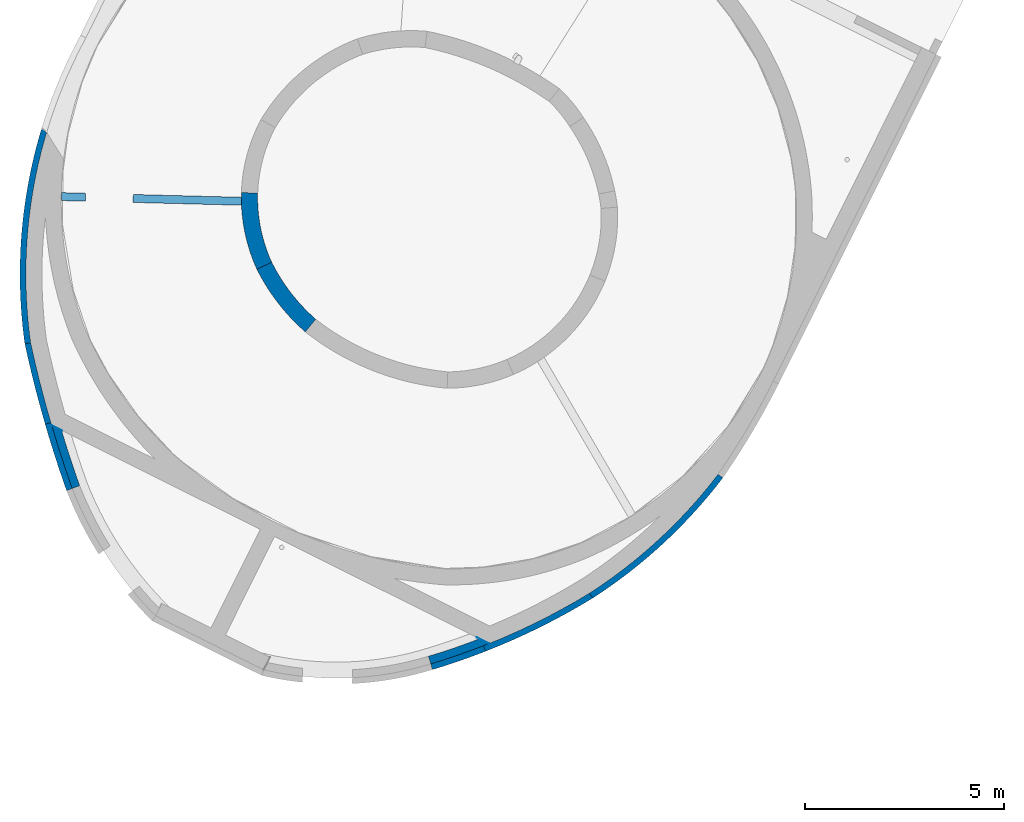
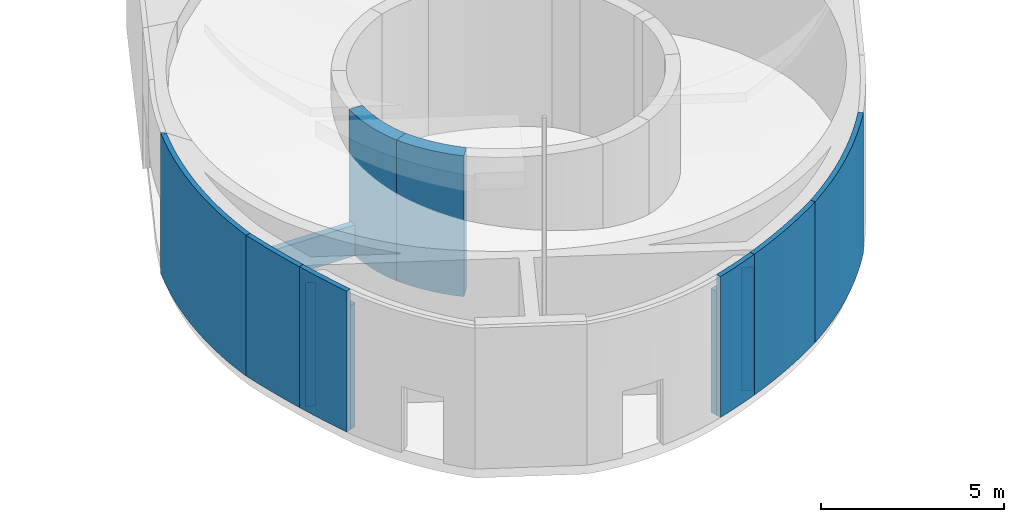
# One storey, part 5 of 91: 13 walls, 1 opening.
"""IFC2X3 building model written with IfcOpenShell, lengths in metres."""

from ifc_helpers import new_model, entity, si_unit, converted_unit, derived_unit, direction, frame, frame_2d, origin, place, context, subcontext, project, spatial, polyline, circle_curve, parameter, trimmed, segment, composite_curve, rectangle, outline, extrude, material, layer, layer_set, layer_usage, type_object, element, save


model = new_model("IFC2X3")

# Units and contexts
model_context = context("Model", 3, precision=1e-05, world=origin(), true_north=direction((0.894925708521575, 0.446215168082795)))
context_of_model = context(None, 3, precision=1e-05, world=origin(), true_north=direction((0.894925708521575, 0.446215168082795)))
body_context = subcontext(model_context, "Body", "Model", "MODEL_VIEW")
ifc_project = project(units=[si_unit("LENGTHUNIT", "METRE"), si_unit("AREAUNIT", "SQUARE_METRE"), si_unit("VOLUMEUNIT", "CUBIC_METRE"), converted_unit("PLANEANGLEUNIT", "DEGREE", entity("IfcRatioMeasure", 0.0174532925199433), si_unit("PLANEANGLEUNIT", "RADIAN"), dimensions=[0, 0, 0, 0, 0, 0, 0]), si_unit("MASSUNIT", "GRAM", prefix="KILO"), si_unit("TIMEUNIT", "SECOND"), si_unit("FREQUENCYUNIT", "HERTZ"), si_unit("THERMODYNAMICTEMPERATUREUNIT", "DEGREE_CELSIUS"), derived_unit("THERMALTRANSMITTANCEUNIT", [(si_unit("MASSUNIT", "GRAM", prefix="KILO"), 1), (si_unit("THERMODYNAMICTEMPERATUREUNIT", "KELVIN"), -1), (si_unit("TIMEUNIT", "SECOND"), -3)]), derived_unit("VOLUMETRICFLOWRATEUNIT", [(si_unit("LENGTHUNIT", "METRE"), 3), (si_unit("TIMEUNIT", "SECOND"), -1)]), si_unit("ELECTRICCURRENTUNIT", "AMPERE"), si_unit("ELECTRICVOLTAGEUNIT", "VOLT"), si_unit("POWERUNIT", "WATT"), si_unit("FORCEUNIT", "NEWTON", prefix="KILO"), si_unit("ILLUMINANCEUNIT", "LUX"), si_unit("LUMINOUSFLUXUNIT", "LUMEN"), si_unit("LUMINOUSINTENSITYUNIT", "CANDELA"), si_unit("PRESSUREUNIT", "PASCAL")], contexts=[model_context, context_of_model])

# Site, building, storey
site_placement = place(None, frame((218.228324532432, 584.720189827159, 0.0), z_axis=(0.0, 0.0, 1.0), x_axis=(0.446215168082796, 0.894925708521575, 0.0)))
site = spatial("IfcSite", under=ifc_project, at=site_placement, Name="Default", CompositionType="ELEMENT")
building_placement = place(site_placement, origin())
building = spatial("IfcBuilding", under=site, at=building_placement, CompositionType="ELEMENT")
storey_placement = place(building_placement, origin())
storey = spatial("IfcBuildingStorey", under=building, at=storey_placement, Name="0 - Piano Terra", CompositionType="ELEMENT", Elevation=0.0)

# Walls
ifc_material_1 = material(Name="Intonaco - Bianco")
ifc_layer_1 = layer(ifc_material_1, 0.01)
ifc_material_2 = material(Name="Default - Calcestruzzo")
ifc_layer_2 = layer(ifc_material_2, 0.4)
ifc_layer_set_1 = layer_set([ifc_layer_1, ifc_layer_2], Name="Muro di base:Setto CA intonacato int - 41 cm")
ifc_layer_usage_1 = layer_usage(ifc_layer_set_1, "AXIS2", "POSITIVE", -0.205)
wall_type_1 = type_object("IfcWallType", Name="Muro di base:Setto CA intonacato int - 41 cm", PredefinedType="STANDARD", material=ifc_layer_set_1)
wall_1_placement = place(storey_placement, frame((-76.8061652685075, -2.20537846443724, 0.0), z_axis=(0.0, 0.0, 1.0), x_axis=(-0.797882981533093, 0.602812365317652, 0.0)))
element("IfcWallStandardCase", 1, at=wall_1_placement, inside=storey, type_object=wall_type_1, material=ifc_layer_usage_1, Name="Muro di base:Setto CA intonacato int - 41 cm", ObjectType="Muro di base:Setto CA intonacato int - 41 cm", context=body_context, shape_type="SweptSolid", body=[
    extrude(outline(composite_curve([segment(polyline([(0.189427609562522, 0.0783720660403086), (-0.185419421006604, -0.088090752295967)]), True, "CONTINUOUS"), segment(trimmed(circle_curve(frame_2d((-4.52933797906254, -1.87392733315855), x_axis=(1.0, 0.0)), 4.69668401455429), [parameter(0.151491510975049)], [parameter(22.3481466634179)], True, "PARAMETER"), False, "CONTINUOUS"), segment(polyline([(0.167329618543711, -1.86150919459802), (0.577342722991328, -1.86811082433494)]), True, "CONTINUOUS"), segment(trimmed(circle_curve(frame_2d((-4.52933797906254, -1.87392733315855), x_axis=(1.0, 0.0)), 5.10668401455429), [parameter(0.0652598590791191)], [parameter(22.4763941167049)], True, "PARAMETER"), True, "CONTINUOUS")], self_intersect=False)), origin(), (0.0, 0.0, 1.0), 4.69),
])
ifc_layer_usage_2 = layer_usage(ifc_layer_set_1, "AXIS2", "POSITIVE", -0.205)
wall_2_placement = place(storey_placement, frame((-75.9813236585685, -0.495753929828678, 0.0), z_axis=(0.0, 0.0, 1.0), x_axis=(-0.421109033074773, 0.907010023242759, 0.0)))
element("IfcWallStandardCase", 2, at=wall_2_placement, inside=storey, type_object=wall_type_1, material=ifc_layer_usage_2, Name="Muro di base:Setto CA intonacato int - 41 cm", ObjectType="Muro di base:Setto CA intonacato int - 41 cm", context=body_context, shape_type="SweptSolid", body=[
    extrude(outline(composite_curve([segment(trimmed(circle_curve(frame_2d((-3.71366241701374, -1.82101515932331), x_axis=(1.0, 0.0)), 4.34110744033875), [parameter(359.999999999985)], [parameter(26.1212812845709)], True, "PARAMETER"), True, "CONTINUOUS"), segment(polyline([(0.184062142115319, 0.0902559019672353), (-0.180979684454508, -0.0965562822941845)]), True, "CONTINUOUS"), segment(trimmed(circle_curve(frame_2d((-3.71366241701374, -1.82101515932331), x_axis=(1.0, 0.0)), 3.93110744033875), [parameter(0.0229809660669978)], [parameter(26.0190522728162)], True, "PARAMETER"), False, "CONTINUOUS"), segment(polyline([(0.217444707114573, -1.81943841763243), (0.627445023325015, -1.82101515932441)]), True, "CONTINUOUS")], self_intersect=False)), origin(), (0.0, 0.0, 1.0), 4.69),
])
ifc_material_3 = material(Name="Sabbia e Calcestruzzo")
ifc_layer_3 = layer(ifc_material_3, 0.2)
ifc_layer_set_2 = layer_set([ifc_layer_3], Name="Muro di base:Blocchetti - 20 cm")
ifc_layer_usage_3 = layer_usage(ifc_layer_set_2, "AXIS2", "POSITIVE", -0.1)
wall_type_2 = type_object("IfcWallType", Name="Muro di base:Blocchetti - 20 cm", PredefinedType="STANDARD", material=ifc_layer_set_2)
wall_3_placement = place(storey_placement, frame((-83.0539183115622, 1.25489317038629, 0.0)))
element("IfcWallStandardCase", 3, at=wall_3_placement, inside=storey, type_object=wall_type_2, material=ifc_layer_usage_3, Name="Muro di base:Blocchetti - 20 cm", ObjectType="Muro di base:Blocchetti - 20 cm", context=body_context, shape_type="SweptSolid", body=[
    extrude(outline(composite_curve([segment(polyline([(-0.0720059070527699, 0.0693912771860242), (0.0742739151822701, -0.0670380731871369)]), True, "CONTINUOUS"), segment(trimmed(circle_curve(frame_2d((21.258177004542, -20.4862644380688), x_axis=(1.0, 0.0)), 29.4228237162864), [parameter(133.221186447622)], [parameter(136.05299329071)], True, "PARAMETER"), False, "CONTINUOUS"), segment(polyline([(1.10893854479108, 0.954601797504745), (1.10893854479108, 1.22824394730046)]), True, "CONTINUOUS"), segment(trimmed(circle_curve(frame_2d((21.258177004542, -20.4862644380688), x_axis=(1.0, 0.0)), 29.6228237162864), [parameter(132.858729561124)], [parameter(136.059357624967)], True, "PARAMETER"), True, "CONTINUOUS")], self_intersect=False)), origin(), (0.0, 0.0, 1.0), 4.13),
])

# Wall, opening
ifc_layer_usage_4 = layer_usage(ifc_layer_set_2, "AXIS2", "NEGATIVE", 0.1)
wall_4_placement = place(storey_placement, frame((-74.7871088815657, 0.737819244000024, 0.0), z_axis=(0.0, 0.0, 1.0), x_axis=(-0.42305389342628, 0.906104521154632, 0.0)))
wall_4 = element("IfcWallStandardCase", 4, at=wall_4_placement, inside=storey, type_object=wall_type_2, material=ifc_layer_usage_4, Name="Muro di base:Blocchetti - 20 cm", ObjectType="Muro di base:Blocchetti - 20 cm", context=body_context, shape_type="SweptSolid", body=[
    extrude(outline(polyline([(0.0, 0.100000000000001), (0.00597672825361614, 5.56275804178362e-05), (0.00964691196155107, -0.100000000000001), (4.51323858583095, -0.100000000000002), (4.51323858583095, 0.1), (0.0, 0.100000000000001)])), origin(), (0.0, 0.0, 1.0), 1.03),
])
opening_placement = place(wall_4_placement, frame((2.93236321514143, 2.08399725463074, 0.0)))
element("IfcOpeningElement", 5, at=opening_placement, cuts=wall_4, Name="Muro di base:Blocchetti - 20 cm", ObjectType="Opening", context=body_context, shape_type="SweptSolid", body=[
    extrude(rectangle(XDim=2.15, YDim=1.2, at=frame_2d((0.0, -3.05311331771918e-15), x_axis=(1.0, 0.0))), frame((0.385230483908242, -3.50799725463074, 1.075), z_axis=(0.0, 1.0, 0.0), x_axis=(0.0, 0.0, -1.0)), (0.0, 0.0, 1.0), 3.048),
])

# Walls
ifc_layer_usage_5 = layer_usage(ifc_layer_set_2, "AXIS2", "NEGATIVE", 0.1)
wall_5_placement = place(storey_placement, frame((-82.9776991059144, -8.61147981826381, 0.0)))
element("IfcWallStandardCase", 6, at=wall_5_placement, inside=storey, type_object=wall_type_2, material=ifc_layer_usage_5, Name="Muro di base:Blocchetti - 20 cm", ObjectType="Muro di base:Blocchetti - 20 cm", context=body_context, shape_type="SweptSolid", body=[
    extrude(outline(composite_curve([segment(polyline([(0.0729285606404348, 0.0684209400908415), (-0.0724641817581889, -0.068915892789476)]), True, "CONTINUOUS"), segment(trimmed(circle_curve(frame_2d((12.3272083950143, 11.5652794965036), x_axis=(1.0, 0.0)), 17.0031286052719), [parameter(223.175749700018)], [parameter(227.88420157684)], True, "PARAMETER"), True, "CONTINUOUS"), segment(trimmed(circle_curve(frame_2d((12.3272083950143, 11.5652794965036), x_axis=(1.0, 0.0)), 17.0031286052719), [parameter(227.88420157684)], [parameter(228.374461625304)], True, "PARAMETER"), True, "CONTINUOUS"), segment(polyline([(1.03271933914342, -1.14459459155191), (1.03271933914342, -0.875767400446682)]), True, "CONTINUOUS"), segment(trimmed(circle_curve(frame_2d((12.3272083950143, 11.5652794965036), x_axis=(1.0, 0.0)), 16.8031286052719), [parameter(223.173462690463)], [parameter(227.765553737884)], True, "PARAMETER"), False, "CONTINUOUS")], self_intersect=False)), origin(), (0.0, 0.0, 1.0), 4.13),
])
ifc_material_4 = material(Name="Alluminio")
ifc_layer_4 = layer(ifc_material_4, 0.15)
ifc_layer_set_3 = layer_set([ifc_layer_4], Name="Muro di base:Rivestimento 15 cm")
ifc_layer_usage_6 = layer_usage(ifc_layer_set_3, "AXIS2", "POSITIVE", -0.075)
wall_type_3 = type_object("IfcWallType", Name="Muro di base:Rivestimento 15 cm", PredefinedType="STANDARD", material=ifc_layer_set_3)
wall_6_placement = place(storey_placement, frame((-80.3649770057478, 3.94526626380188, 0.0)))
element("IfcWallStandardCase", 7, at=wall_6_placement, inside=storey, type_object=wall_type_3, material=ifc_layer_usage_6, Name="Muro di base:Rivestimento 15 cm", ObjectType="Muro di base:Rivestimento 15 cm", context=body_context, shape_type="SweptSolid", body=[
    extrude(outline(composite_curve([segment(trimmed(circle_curve(frame_2d((7.0799428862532, -10.3259398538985), x_axis=(1.0, 0.0)), 12.5950089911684), [parameter(99.5991153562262)], [parameter(124.436341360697)], True, "PARAMETER"), True, "CONTINUOUS"), segment(polyline([(-0.0424117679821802, 0.061856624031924), (0.047000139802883, -0.0587121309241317)]), True, "CONTINUOUS"), segment(trimmed(circle_curve(frame_2d((7.0799428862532, -10.3259398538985), x_axis=(1.0, 0.0)), 12.4450089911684), [parameter(99.9145326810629)], [parameter(124.410732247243)], True, "PARAMETER"), False, "CONTINUOUS"), segment(polyline([(4.93717416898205, 1.93321146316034), (4.97968076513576, 2.09272152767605)]), True, "CONTINUOUS")], self_intersect=False)), origin(), (0.0, 0.0, 1.0), 4.69),
])
ifc_layer_usage_7 = layer_usage(ifc_layer_set_3, "AXIS2", "POSITIVE", -0.075)
wall_7_placement = place(storey_placement, frame((-81.9349797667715, 2.59457218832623, 0.0)))
element("IfcWallStandardCase", 8, at=wall_7_placement, inside=storey, type_object=wall_type_3, material=ifc_layer_usage_7, Name="Muro di base:Rivestimento 15 cm", ObjectType="Muro di base:Rivestimento 15 cm", context=body_context, shape_type="SweptSolid", body=[
    extrude(outline(composite_curve([segment(trimmed(circle_curve(frame_2d((20.1392384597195, -21.825943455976), x_axis=(1.0, 0.0)), 29.7728237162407), [parameter(128.691143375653)], [parameter(132.698351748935)], True, "PARAMETER"), True, "CONTINUOUS"), segment(polyline([(-0.0508603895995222, 0.0551200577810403), (0.0508603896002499, -0.0551200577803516)]), True, "CONTINUOUS"), segment(trimmed(circle_curve(frame_2d((20.1392384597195, -21.825943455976), x_axis=(1.0, 0.0)), 29.6228237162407), [parameter(128.701939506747)], [parameter(132.698351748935)], True, "PARAMETER"), False, "CONTINUOUS"), segment(polyline([(1.61700290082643, 1.29198194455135), (1.52759099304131, 1.41255069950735)]), True, "CONTINUOUS")], self_intersect=False)), origin(), (0.0, 0.0, 1.0), 4.69),
])
ifc_layer_usage_8 = layer_usage(ifc_layer_set_3, "AXIS2", "POSITIVE", -0.075)
wall_8_placement = place(storey_placement, frame((-79.7225219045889, -11.5155032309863, 0.0)))
element("IfcWallStandardCase", 9, at=wall_8_placement, inside=storey, type_object=wall_type_3, material=ifc_layer_usage_8, Name="Muro di base:Rivestimento 15 cm", ObjectType="Muro di base:Rivestimento 15 cm", context=body_context, shape_type="SweptSolid", body=[
    extrude(outline(composite_curve([segment(trimmed(circle_curve(frame_2d((9.07203119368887, 14.4693029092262), x_axis=(1.0, 0.0)), 17.1531286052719), [parameter(227.884201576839)], [parameter(237.91291818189)], True, "PARAMETER"), True, "CONTINUOUS"), segment(polyline([(-0.0398405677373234, -0.0635431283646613), (0.0382862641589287, 0.0645177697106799)]), True, "CONTINUOUS"), segment(polyline([(0.0382862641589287, 0.0645177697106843), (-0.301490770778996, 0.283272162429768)]), True, "CONTINUOUS"), segment(polyline([(-0.301490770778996, 0.283272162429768), (-0.635972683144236, 0.510039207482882)]), True, "CONTINUOUS"), segment(polyline([(-0.635972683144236, 0.510039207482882), (-0.964970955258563, 0.744691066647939)]), True, "CONTINUOUS"), segment(polyline([(-0.964970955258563, 0.744691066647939), (-1.28829966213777, 0.98709511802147)]), True, "CONTINUOUS"), segment(polyline([(-1.28829966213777, 0.98709511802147), (-1.60577620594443, 1.23711444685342)]), True, "CONTINUOUS"), segment(polyline([(-1.60577620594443, 1.23711444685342), (-1.91722129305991, 1.49460783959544)]), True, "CONTINUOUS"), segment(polyline([(-1.91722129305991, 1.49460783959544), (-2.22244539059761, 1.75941801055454)]), True, "CONTINUOUS"), segment(polyline([(-2.22244539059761, 1.75941801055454), (-2.27672704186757, 1.80786267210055)]), True, "CONTINUOUS"), segment(polyline([(-2.27672704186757, 1.80786267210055), (-2.33079703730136, 1.85653593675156)]), True, "CONTINUOUS"), segment(polyline([(-2.33079703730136, 1.85653593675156), (-2.43139171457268, 1.74526729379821)]), True, "CONTINUOUS")], self_intersect=False)), origin(), (0.0, 0.0, 1.0), 4.69),
])
ifc_layer_usage_9 = layer_usage(ifc_layer_set_3, "AXIS2", "POSITIVE", -0.075)
wall_9_placement = place(storey_placement, frame((-83.1816143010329, 1.37457859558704, 0.0)))
element("IfcWallStandardCase", 10, at=wall_9_placement, inside=storey, type_object=wall_type_3, material=ifc_layer_usage_9, Name="Muro di base:Rivestimento 15 cm", ObjectType="Muro di base:Rivestimento 15 cm", context=body_context, shape_type="SweptSolid", body=[
    extrude(outline(composite_curve([segment(trimmed(circle_curve(frame_2d((21.3858729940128, -20.6059498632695), x_axis=(1.0, 0.0)), 29.7728237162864), [parameter(132.698351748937)], [parameter(136.064044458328)], True, "PARAMETER"), True, "CONTINUOUS"), segment(polyline([(-0.0540086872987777, 0.0520390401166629), (0.0556900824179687, -0.0502941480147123)]), True, "CONTINUOUS"), segment(polyline([(0.0556900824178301, -0.0502941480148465), (0.442122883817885, 0.34329872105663)]), True, "CONTINUOUS"), segment(polyline([(0.442122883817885, 0.34329872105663), (0.835816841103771, 0.729627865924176)]), True, "CONTINUOUS"), segment(polyline([(0.835816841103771, 0.729627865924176), (1.23662844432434, 1.10855272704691)]), True, "CONTINUOUS"), segment(polyline([(1.23662844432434, 1.10855272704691), (1.26704328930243, 1.13673571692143)]), True, "CONTINUOUS"), segment(polyline([(1.26704328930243, 1.13673571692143), (1.29749492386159, 1.16487353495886)]), True, "CONTINUOUS"), segment(polyline([(1.29749492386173, 1.16487353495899), (1.19577414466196, 1.27511365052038)]), True, "CONTINUOUS")], self_intersect=False)), origin(), (0.0, 0.0, 1.0), 4.69),
])
ifc_layer_usage_10 = layer_usage(ifc_layer_set_3, "AXIS2", "POSITIVE", -0.075)
wall_10_placement = place(storey_placement, frame((-75.5935269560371, -13.0787855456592, 0.0)))
element("IfcWallStandardCase", 11, at=wall_10_placement, inside=storey, type_object=wall_type_3, material=ifc_layer_usage_10, Name="Muro di base:Rivestimento 15 cm", ObjectType="Muro di base:Rivestimento 15 cm", context=body_context, shape_type="SweptSolid", body=[
    extrude(outline(composite_curve([segment(trimmed(circle_curve(frame_2d((2.39534957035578, 12.5609580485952), x_axis=(1.0, 0.0)), 12.8623127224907), [parameter(239.313352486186)], [parameter(259.203438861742)], True, "PARAMETER"), True, "CONTINUOUS"), segment(polyline([(-0.0140491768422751, -0.0736723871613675), (0.0106827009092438, 0.0743148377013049)]), True, "CONTINUOUS"), segment(trimmed(circle_curve(frame_2d((2.39534957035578, 12.5609580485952), x_axis=(1.0, 0.0)), 12.7123127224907), [parameter(239.321609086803)], [parameter(259.18799196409)], True, "PARAMETER"), False, "CONTINUOUS"), segment(polyline([(-4.0907086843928, 1.62780008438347), (-4.16883551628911, 1.49973918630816)]), True, "CONTINUOUS")], self_intersect=False)), origin(), (0.0, 0.0, 1.0), 4.69),
])
ifc_layer_usage_11 = layer_usage(ifc_layer_set_3, "AXIS2", "POSITIVE", -0.075)
wall_11_placement = place(storey_placement, frame((-82.1036162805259, -9.7146016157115, 0.0)))
element("IfcWallStandardCase", 12, at=wall_11_placement, inside=storey, type_object=wall_type_3, material=ifc_layer_usage_11, Name="Muro di base:Rivestimento 15 cm", ObjectType="Muro di base:Rivestimento 15 cm", context=body_context, shape_type="SweptSolid", body=[
    extrude(outline(composite_curve([segment(polyline([(-0.0502973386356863, -0.0556343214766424), (0.050297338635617, 0.0556343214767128)]), True, "CONTINUOUS"), segment(trimmed(circle_curve(frame_2d((11.4531255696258, 12.6684012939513), x_axis=(1.0, 0.0)), 17.0031286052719), [parameter(223.175749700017)], [parameter(227.88420157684)], True, "PARAMETER"), False, "CONTINUOUS"), segment(polyline([(-0.946547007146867, 1.03420590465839), (-1.05559351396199, 0.931205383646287)]), True, "CONTINUOUS"), segment(trimmed(circle_curve(frame_2d((11.4531255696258, 12.6684012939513), x_axis=(1.0, 0.0)), 17.1531286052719), [parameter(223.17742037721)], [parameter(227.884201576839)], True, "PARAMETER"), True, "CONTINUOUS")], self_intersect=False)), origin(), (0.0, 0.0, 1.0), 4.69),
])
ifc_layer_5 = layer(ifc_material_3, 0.005)
ifc_layer_set_4 = layer_set([ifc_layer_5], Name="Muro di base:Malta di raccordo")
ifc_layer_usage_12 = layer_usage(ifc_layer_set_4, "AXIS2", "NEGATIVE", 0.0025)
wall_type_4 = type_object("IfcWallType", Name="Muro di base:Malta di raccordo", PredefinedType="STANDARD", material=ifc_layer_set_4)
wall_12_placement = place(storey_placement, frame((-81.9424797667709, 2.48777562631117, 0.0), z_axis=(0.0, 0.0, 1.0), x_axis=(0.0, -1.0, 0.0)))
element("IfcWallStandardCase", 13, at=wall_12_placement, inside=storey, type_object=wall_type_4, material=ifc_layer_usage_12, Name="Muro di base:Malta di raccordo", ObjectType="Muro di base:Malta di raccordo", context=body_context, shape_type="SweptSolid", body=[
    extrude(outline(composite_curve([segment(polyline([(0.291257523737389, -0.00249999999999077), (0.291257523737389, 0.00250000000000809)]), True, "CONTINUOUS"), segment(polyline([(0.291257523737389, 0.00250000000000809), (0.0, 0.00250000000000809)]), True, "CONTINUOUS"), segment(trimmed(circle_curve(frame_2d((21.7191468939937, 20.1467384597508), x_axis=(0.0, 1.0)), 29.6228237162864), [parameter(132.845537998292)], [parameter(132.858729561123)], True, "PARAMETER"), True, "CONTINUOUS"), segment(polyline([(0.00463850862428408, -0.00249999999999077), (0.278280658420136, -0.00249999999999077)]), True, "CONTINUOUS"), segment(polyline([(0.278280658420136, -0.00249999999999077), (0.291257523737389, -0.00249999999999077)]), True, "CONTINUOUS")], self_intersect=False)), origin(), (0.0, 0.0, 1.0), 4.13),
])
ifc_layer_usage_13 = layer_usage(ifc_layer_set_4, "AXIS2", "NEGATIVE", 0.0025)
wall_13_placement = place(storey_placement, frame((-81.9424797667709, -9.41493713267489, 0.0), z_axis=(0.0, 0.0, 1.0), x_axis=(0.0, -1.0, 0.0)))
element("IfcWallStandardCase", 14, at=wall_13_placement, inside=storey, type_object=wall_type_4, material=ifc_layer_usage_13, Name="Muro di base:Malta di raccordo", ObjectType="Muro di base:Malta di raccordo", context=body_context, shape_type="SweptSolid", body=[
    extrude(outline(composite_curve([segment(trimmed(circle_curve(frame_2d((-12.3687368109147, 11.2919890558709), x_axis=(0.0, 1.0)), 17.0031286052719), [parameter(228.374461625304)], [parameter(228.396997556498)], True, "PARAMETER"), True, "CONTINUOUS"), segment(polyline([(0.345578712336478, 0.00250000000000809), (0.0, 0.00250000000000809)]), True, "CONTINUOUS"), segment(polyline([(0.0, 0.00250000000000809), (0.0, -0.00249999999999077)]), True, "CONTINUOUS"), segment(polyline([(0.0, -0.00249999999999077), (0.0723100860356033, -0.00249999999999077)]), True, "CONTINUOUS"), segment(polyline([(0.0723100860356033, -0.00249999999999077), (0.341137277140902, -0.00249999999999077)]), True, "CONTINUOUS")], self_intersect=False)), origin(), (0.0, 0.0, 1.0), 4.13),
])

save(model, "model.ifc")
